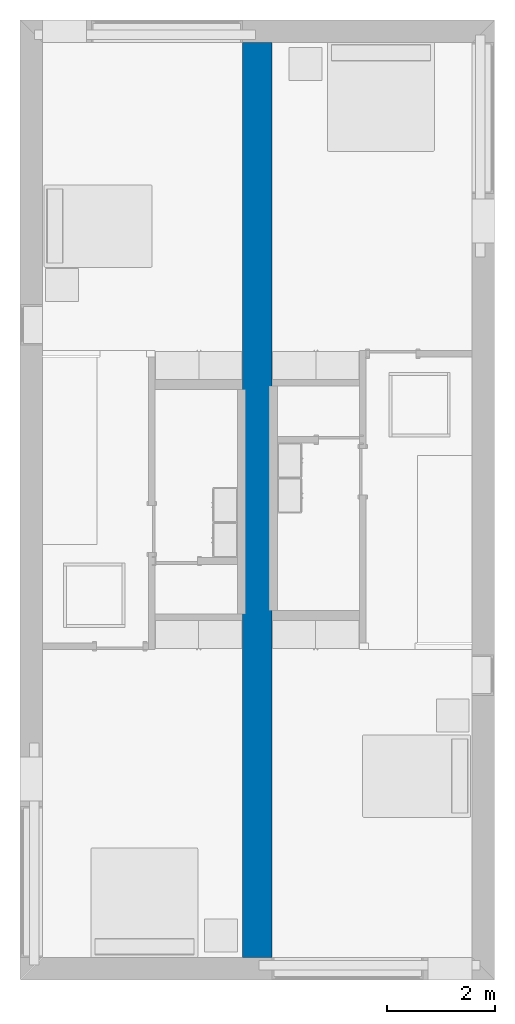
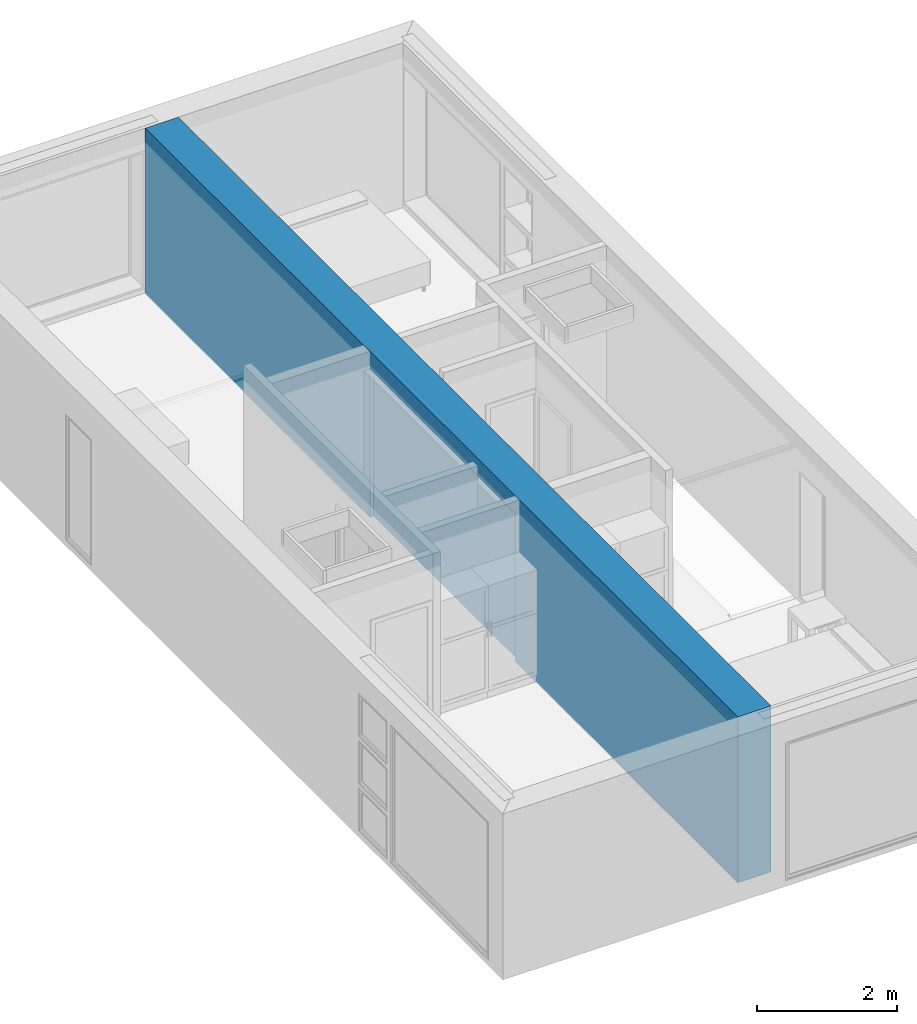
# One storey, part 5 of 16: 1 wall.
"""IFC4 building model written with IfcOpenShell, lengths in metres."""

import ifcopenshell
import ifcopenshell.guid

model = None  # the IFC model being written
_history = None  # IfcOwnerHistory: only IFC2X3 demands one
_inside = {}  # id of a spatial element -> (the spatial element, [elements in it])
_under = {}  # id of a project, library or spatial element -> (it, [spatial elements below it])
_declared = {}  # id of a project -> (the project, [libraries it declares])
_typed = {}  # id of a type object -> (the type object, [elements of that type])
_made_of = {}  # id of a material, layer set ... -> (it, [elements and type objects made of it])


def new_model(schema):
    """Start an empty IFC model of exactly this schema.

    Asked for "IFC4X3", IfcOpenShell would pick the latest addendum, in which some entities
    have other attributes; the version numbers below select the first issue.
    IFC2X3 requires an IfcOwnerHistory on every rooted entity: one is made here for all.
    """
    global model, _history
    if schema == "IFC4X3":
        model = ifcopenshell.file(schema_version=(4, 3, 0, 0))
    else:
        model = ifcopenshell.file(schema=schema)
    _inside.clear()
    _under.clear()
    _declared.clear()
    _typed.clear()
    _made_of.clear()
    _history = None
    if model.schema == "IFC2X3":
        org = make("IfcOrganization", Name="unknown")
        user = make(
            "IfcPersonAndOrganization",
            ThePerson=make("IfcPerson", FamilyName="unknown"),
            TheOrganization=org,
        )
        app = make(
            "IfcApplication",
            ApplicationDeveloper=org,
            Version="unknown",
            ApplicationFullName="unknown",
            ApplicationIdentifier="unknown",
        )
        _history = make(
            "IfcOwnerHistory",
            OwningUser=user,
            OwningApplication=app,
            ChangeAction="ADDED",
            CreationDate=0,
        )
    return model


def make(cls, **values):
    """One entity of the class cls with the attributes given. An attribute that is None is left unset."""
    return model.create_entity(
        cls, **{name: value for name, value in values.items() if value is not None}
    )


def entity(cls, *values):
    """Any entity or typed value of the class cls, its attributes in the order of the schema. None: left unset."""
    e = model.create_entity(cls)
    for i, value in enumerate(values):
        if value is not None:
            e[i] = value
    return e


def rooted(cls, **values):
    """An entity with a GlobalId (a new one), such as an element, a storey or a relation."""
    return make(cls, GlobalId=ifcopenshell.guid.new(), OwnerHistory=_history, **values)


def si_unit(unit_type, name, prefix=None):
    """IfcSIUnit, for example si_unit("LENGTHUNIT", "METRE", prefix="MILLI")."""
    return make("IfcSIUnit", UnitType=unit_type, Prefix=prefix, Name=name)


def converted_unit(unit_type, name, factor, base, dimensions=None, offset=None):
    """IfcConversionBasedUnit, such as the inch: factor (a typed value) times the base unit."""
    return make(
        "IfcConversionBasedUnit"
        if offset is None
        else "IfcConversionBasedUnitWithOffset",
        ConversionOffset=offset,
        Dimensions=None
        if dimensions is None
        else entity("IfcDimensionalExponents", *dimensions),
        UnitType=unit_type,
        Name=name,
        ConversionFactor=make(
            "IfcMeasureWithUnit", ValueComponent=factor, UnitComponent=base
        ),
    )


def assignment(units):
    """IfcUnitAssignment: the units of a project."""
    return None if units is None else make("IfcUnitAssignment", Units=units)


def point(xyz):
    """IfcCartesianPoint."""
    return None if xyz is None else make("IfcCartesianPoint", Coordinates=xyz)


def direction(xyz):
    """IfcDirection."""
    return None if xyz is None else make("IfcDirection", DirectionRatios=xyz)


def frame(location, z_axis=None, x_axis=None):
    """IfcAxis2Placement3D, a coordinate frame: its origin and axes. An axis left out is left unset."""
    return make(
        "IfcAxis2Placement3D",
        Location=point(location),
        Axis=direction(z_axis),
        RefDirection=direction(x_axis),
    )


def origin():
    """The frame at (0, 0, 0) with its axes left unset."""
    return frame((0.0, 0.0, 0.0))


def place(relative_to, where):
    """IfcLocalPlacement: puts the frame where relative to a parent placement (None: the world)."""
    return make(
        "IfcLocalPlacement", PlacementRelTo=relative_to, RelativePlacement=where
    )


def context(
    kind, dimensions, precision=None, world=None, true_north=None, identifier=None
):
    """IfcGeometricRepresentationContext, for example the 3D "Model" context."""
    return make(
        "IfcGeometricRepresentationContext",
        ContextIdentifier=identifier,
        ContextType=kind,
        CoordinateSpaceDimension=dimensions,
        Precision=precision,
        WorldCoordinateSystem=world,
        TrueNorth=true_north,
    )


def project(units=None, contexts=None):
    """IfcProject with its units and contexts."""
    return rooted(
        "IfcProject",
        Name="project",
        RepresentationContexts=contexts,
        UnitsInContext=assignment(units),
    )


def spatial(cls, under=None, at=None, **own):
    """A site, building, storey or space (cls), placed at a placement, below another one or the project."""
    s = rooted(cls, ObjectPlacement=at, **own)
    if under is not None:
        _under.setdefault(under.id(), (under, []))[1].append(s)
    return s


def faces_of(points, faces, orient=None, outer=None):
    """IfcFace entities. A face is a list of loops; a loop is a list of indices into points, from 0.

    orient and outer hold one flag for each loop. By default every Orientation is true, the
    first loop of a face is its IfcFaceOuterBound and the others are IfcFaceBound.
    """
    made = []
    for i, loops in enumerate(faces):
        bounds = []
        for j, loop in enumerate(loops):
            is_outer = j == 0 if outer is None else outer[i][j]
            bounds.append(
                make(
                    "IfcFaceOuterBound" if is_outer else "IfcFaceBound",
                    Bound=make("IfcPolyLoop", Polygon=[points[k] for k in loop]),
                    Orientation=True if orient is None else orient[i][j],
                )
            )
        made.append(make("IfcFace", Bounds=bounds))
    return made


def face_set(faces, orient=None, outer=None):
    """The faces of one IfcConnectedFaceSet. surface_model builds it on its shared points."""
    return ("IfcConnectedFaceSet", faces, orient, outer)


def surface_model(cls, points, shells):
    """IfcFaceBasedSurfaceModel or IfcShellBasedSurfaceModel (cls): surfaces that need not close."""
    shared = [point(p) for p in points]
    made = [make(c, CfsFaces=faces_of(shared, fs, o, b)) for c, fs, o, b in shells]
    if cls == "IfcFaceBasedSurfaceModel":
        return make(cls, FbsmFaces=made)
    return make(cls, SbsmBoundary=made)


def shape(context_of_items, identifier, shape_type, items):
    """IfcShapeRepresentation: the items that make up one representation, for example the "Body"."""
    return make(
        "IfcShapeRepresentation",
        ContextOfItems=context_of_items,
        RepresentationIdentifier=identifier,
        RepresentationType=shape_type,
        Items=items,
    )


def material(Name=None, Category=None):
    """IfcMaterial."""
    return make("IfcMaterial", Name=Name, Category=Category)


def layer(
    of_material, thickness, ventilated=None, Name=None, Category=None, Priority=None
):
    """IfcMaterialLayer: one layer of a wall or slab, of a material (None: an air gap)."""
    return make(
        "IfcMaterialLayer",
        Material=of_material,
        LayerThickness=thickness,
        IsVentilated=ventilated,
        Name=Name,
        Category=Category,
        Priority=Priority,
    )


def layer_set(layers, Name=None):
    """IfcMaterialLayerSet."""
    return make("IfcMaterialLayerSet", MaterialLayers=layers, LayerSetName=Name)


def layer_usage(for_layer_set, set_direction, sense, offset, extent=None):
    """IfcMaterialLayerSetUsage: how a layer set lies in its element."""
    return make(
        "IfcMaterialLayerSetUsage",
        ForLayerSet=for_layer_set,
        LayerSetDirection=set_direction,
        DirectionSense=sense,
        OffsetFromReferenceLine=offset,
        ReferenceExtent=extent,
    )


def made_of(thing, what):
    """Note that an element or type object is made of a material, layer set ...; save() writes the relation."""
    if what is not None:
        _made_of.setdefault(what.id(), (what, []))[1].append(thing)
    return thing


def element(
    cls,
    number,
    at=None,
    inside=None,
    cuts=None,
    type_object=None,
    material=None,
    context=None,
    identifier="Body",
    shape_type=None,
    held_by="IfcProductDefinitionShape",
    body=None,
    shapes=None,
    **own,
):
    """One element of the class cls, such as IfcWall. Its Tag is "e" and its number.

    at: its placement. inside: the storey or other place that contains it. cuts: it is an
    opening in that element (IfcRelVoidsElement). A single representation is given by context,
    identifier, shape_type and body (its items); several are given by shapes. held_by: the class
    of the entity that holds the representations. save() writes the other relations.
    """
    e = rooted(cls, Tag="e%d" % number, ObjectPlacement=at, **own)
    if body is not None:
        shapes = [shape(context, identifier, shape_type, body)]
    if shapes is not None:
        e.Representation = make(held_by, Representations=shapes)
    if inside is not None:
        _inside.setdefault(inside.id(), (inside, []))[1].append(e)
    if cuts is not None:
        rooted(
            "IfcRelVoidsElement", RelatingBuildingElement=cuts, RelatedOpeningElement=e
        )
    if type_object is not None:
        _typed.setdefault(type_object.id(), (type_object, []))[1].append(e)
    return made_of(e, material)


def aggregate(whole, parts):
    """IfcRelAggregates: a whole, such as a stair, and the parts it consists of."""
    return rooted("IfcRelAggregates", RelatingObject=whole, RelatedObjects=parts)


def save(model, path):
    """Write the relations noted so far, then the file.

    IfcRelAggregates (storeys below a building ...), IfcRelContainedInSpatialStructure (elements
    in a storey), IfcRelDefinesByType, IfcRelAssociatesMaterial and IfcRelDeclares: one each for
    every whole, place, type object, material and project.
    """
    for whole, parts in _under.values():
        aggregate(whole, parts)
    for where, things in _inside.values():
        rooted(
            "IfcRelContainedInSpatialStructure",
            RelatedElements=things,
            RelatingStructure=where,
        )
    for kind, things in _typed.values():
        rooted("IfcRelDefinesByType", RelatedObjects=things, RelatingType=kind)
    for what, things in _made_of.values():
        rooted("IfcRelAssociatesMaterial", RelatedObjects=things, RelatingMaterial=what)
    for by, libraries in _declared.values():
        rooted("IfcRelDeclares", RelatingContext=by, RelatedDefinitions=libraries)
    model.write(path)


model = new_model("IFC4")

# Units and contexts
model_context = context("Model", 3, precision=1e-09, world=origin())
plan_context = context("Plan", 3, precision=1e-09, world=origin())
ifc_project = project(units=[si_unit("LENGTHUNIT", "METRE"), si_unit("AREAUNIT", "SQUARE_METRE"), si_unit("VOLUMEUNIT", "CUBIC_METRE"), converted_unit("PLANEANGLEUNIT", "DEGREE", entity("IfcRatioMeasure", 0.01745329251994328), si_unit("PLANEANGLEUNIT", "RADIAN"), dimensions=[0, 0, 0, 0, 0, 0, 0]), si_unit("TIMEUNIT", "SECOND")], contexts=[model_context, plan_context])

# Site, building, storey
site_placement = place(None, origin())
site = spatial("IfcSite", under=ifc_project, at=site_placement, Name="Default", CompositionType="ELEMENT")
building_placement = place(site_placement, origin())
building = spatial("IfcBuilding", under=site, at=building_placement, CompositionType="ELEMENT")
storey_placement = place(building_placement, frame((0.0, 0.0, 3.100000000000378)))
storey = spatial("IfcBuildingStorey", under=building, at=storey_placement, Name="Level 2", CompositionType="ELEMENT", Elevation=3.100000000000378)

# Wall
ifc_material_1 = material(Name="Plasterboard")
ifc_layer_1 = layer(ifc_material_1, 0.016)
ifc_material_2 = material(Name="Metal - Stud Layer")
ifc_layer_2 = layer(ifc_material_2, 0.041)
ifc_material_3 = material(Name="Masonry - Concrete Block")
ifc_layer_3 = layer(ifc_material_3, 0.193)
ifc_material_4 = material(Name="Misc. Air Layers - Air Space")
ifc_layer_4 = layer(ifc_material_4, 0.05)
ifc_layer_5 = layer(ifc_material_3, 0.193)
ifc_layer_6 = layer(ifc_material_2, 0.041)
ifc_layer_7 = layer(ifc_material_1, 0.016)
ifc_layer_set = layer_set([ifc_layer_1, ifc_layer_2, ifc_layer_3, ifc_layer_4, ifc_layer_5, ifc_layer_6, ifc_layer_7], Name="Basic Wall:Party Wall - CMU Residential Unit Dimising Wall")
ifc_layer_usage = layer_usage(ifc_layer_set, "AXIS2", "NEGATIVE", 0.2750000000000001)
wall_placement = place(storey_placement, frame((4.4, -0.4170000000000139, 0.0), z_axis=(0.0, 0.0, 1.0), x_axis=(0.0, -1.0, 0.0)))
element("IfcWall", 1, at=wall_placement, inside=storey, material=ifc_layer_usage, Name="Basic Wall:Party Wall - CMU Residential Unit Dimising Wall", ObjectType="Basic Wall:Party Wall - CMU Residential Unit Dimising Wall", PredefinedType="SOLIDWALL", context=model_context, shape_type="SurfaceModel", body=[
    surface_model("IfcFaceBasedSurfaceModel", [(16.96599999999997, -0.2749999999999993, 2.900000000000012), (16.96599999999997, -0.2749999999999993, 0.0), (10.71699999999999, -0.2749999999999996, 0.0), (10.59299999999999, -0.2749999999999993, 0.0), (10.59299999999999, -0.2749999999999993, 2.595000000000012), (6.432999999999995, -0.2749999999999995, 2.595000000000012), (6.432999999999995, -0.2749999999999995, 0.0), (6.248999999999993, -0.2749999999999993, 0.0), (0.0, -0.2749999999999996, 0.0), (0.0, -0.2749999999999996, 0.1000000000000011), (0.0, -0.2749999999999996, 2.509999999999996), (0.0, -0.2749999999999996, 2.900000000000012), (6.248999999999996, -0.2749999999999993, 2.900000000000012), (6.432999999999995, -0.2749999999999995, 2.900000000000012), (10.59299999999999, -0.2749999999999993, 2.900000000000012), (10.71699999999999, -0.2749999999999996, 2.900000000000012), (0.0, 0.2750000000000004, 2.900000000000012), (6.248999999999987, 0.2750000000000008, 2.900000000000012), (6.372999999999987, 0.2750000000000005, 2.900000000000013), (10.53299999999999, 0.2750000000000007, 2.900000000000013), (10.71699999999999, 0.2750000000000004, 2.900000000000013), (16.96599999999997, 0.2750000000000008, 2.900000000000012), (16.96599999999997, 0.2750000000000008, 2.510000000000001), (16.96599999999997, 0.2750000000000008, 0.1000000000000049), (16.96599999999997, 0.2750000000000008, 0.0), (10.71699999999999, 0.2750000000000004, 0.0), (10.53299999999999, 0.2750000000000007, 0.0), (10.533, 0.2750000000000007, 2.595000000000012), (6.372999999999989, 0.2750000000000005, 2.595000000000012), (6.372999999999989, 0.2750000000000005, 0.0), (6.248999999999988, 0.2750000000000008, 0.0), (0.0, 0.2750000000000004, 0.0), (6.372999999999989, 0.2180000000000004, 0.0), (10.53299999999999, 0.2180000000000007, 0.0), (10.59299999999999, -0.2179999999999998, 0.0), (6.432999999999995, -0.2179999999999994, 0.0), (10.53299999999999, 0.2180000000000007, 2.595000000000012), (6.372999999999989, 0.2180000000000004, 2.595000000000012), (6.432999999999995, -0.2179999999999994, 2.595000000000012), (10.59299999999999, -0.2179999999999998, 2.595000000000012)], [face_set([[[0, 1, 2, 3, 4, 5, 6, 7, 8, 9, 10, 11, 12, 13, 14, 15]], [[16, 17, 18, 19, 20, 21, 22, 23, 24, 25, 26, 27, 28, 29, 30, 31]], [[8, 31, 30, 29, 32, 33, 26, 25, 24, 1, 2, 3, 34, 35, 6, 7]], [[11, 16, 17, 18, 19, 20, 21, 0, 15, 14, 13, 12]], [[8, 9, 10, 11, 16, 31]], [[0, 1, 24, 23, 22, 21]], [[36, 33, 32, 37]], [[36, 37, 28, 27]], [[37, 28, 29, 32]], [[33, 36, 27, 26]], [[38, 39, 34, 35]], [[38, 39, 4, 5]], [[35, 6, 5, 38]], [[39, 34, 3, 4]]])]),
])

save(model, "model.ifc")
